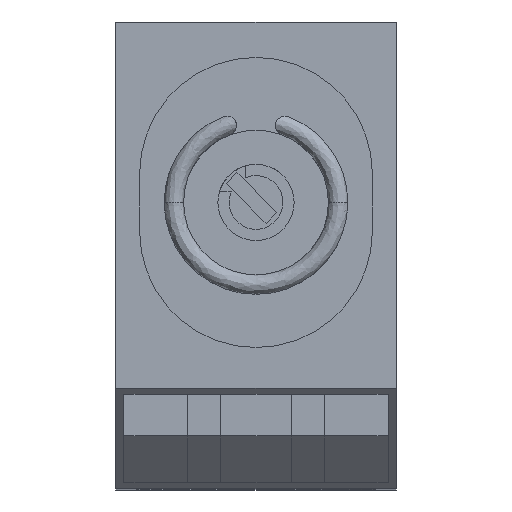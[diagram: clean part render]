
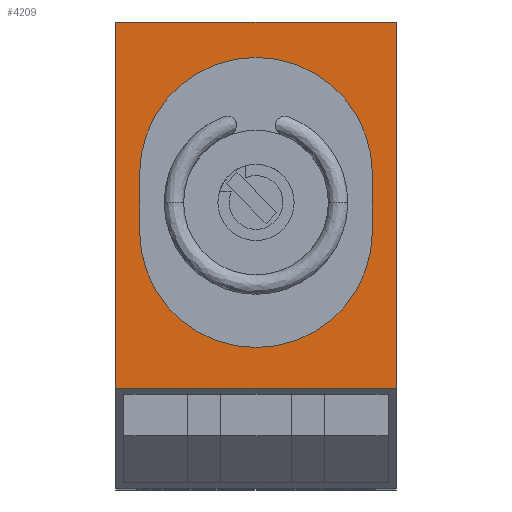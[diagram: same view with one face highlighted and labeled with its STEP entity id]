
A CAD part, top view. The second image highlights one B-rep face of the part: STEP entity #4209.
In plain terms, the highlighted planar face has unit normal (0, 0, 1).
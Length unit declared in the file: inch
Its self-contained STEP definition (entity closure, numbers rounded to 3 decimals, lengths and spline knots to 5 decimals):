
#544 = CARTESIAN_POINT ( 'NONE',  ( 4.2922, 3.69774, 0.3059 ) ) ;
#598 = CARTESIAN_POINT ( 'NONE',  ( 4.7267, 3.43174, 0.3059 ) ) ;
#611 = VERTEX_POINT ( 'NONE', #5450 ) ;
#691 = LINE ( 'NONE', #692, #693 ) ;
#692 = CARTESIAN_POINT ( 'NONE',  ( 4.2922, 3.43174, 0.3059 ) ) ;
#693 = VECTOR ( 'NONE', #694, 39.37008 ) ;
#694 = DIRECTION ( 'NONE',  ( 0., 1., 0. ) ) ;
#961 = CIRCLE ( 'NONE', #962, 0.197 ) ;
#962 = AXIS2_PLACEMENT_3D ( 'NONE', #963, #964, #969 ) ;
#963 = CARTESIAN_POINT ( 'NONE',  ( 4.4892, 3.79474, 0.3059 ) ) ;
#964 = DIRECTION ( 'NONE',  ( 0., 0., -1. ) ) ;
#969 = DIRECTION ( 'NONE',  ( -1., 0., 0. ) ) ;
#1268 = CARTESIAN_POINT ( 'NONE',  ( 4.2922, 3.79474, 0.3059 ) ) ;
#1367 = CARTESIAN_POINT ( 'NONE',  ( 4.2517, 4.05174, 0.3059 ) ) ;
#1368 = LINE ( 'NONE', #1369, #1370 ) ;
#1369 = CARTESIAN_POINT ( 'NONE',  ( 4.7267, 3.66808, 0.3059 ) ) ;
#1370 = VECTOR ( 'NONE', #1371, 39.37008 ) ;
#1371 = DIRECTION ( 'NONE',  ( 0., 1., 0. ) ) ;
#1478 = LINE ( 'NONE', #1479, #1480 ) ;
#1479 = CARTESIAN_POINT ( 'NONE',  ( 4.6862, 3.43174, 0.3059 ) ) ;
#1480 = VECTOR ( 'NONE', #1481, 39.37008 ) ;
#1481 = DIRECTION ( 'NONE',  ( 0., -1., 0. ) ) ;
#1512 = LINE ( 'NONE', #1513, #1514 ) ;
#1513 = CARTESIAN_POINT ( 'NONE',  ( 4.2517, 3.43174, 0.3059 ) ) ;
#1514 = VECTOR ( 'NONE', #1515, 39.37008 ) ;
#1515 = DIRECTION ( 'NONE',  ( 0., -1., 0. ) ) ;
#1849 = CARTESIAN_POINT ( 'NONE',  ( 4.6862, 3.69774, 0.3059 ) ) ;
#1890 = CARTESIAN_POINT ( 'NONE',  ( 4.2517, 3.43174, 0.3059 ) ) ;
#1905 = CARTESIAN_POINT ( 'NONE',  ( 4.7267, 4.05174, 0.3059 ) ) ;
#1987 = LINE ( 'NONE', #1988, #1989 ) ;
#1988 = CARTESIAN_POINT ( 'NONE',  ( 4.2517, 4.05174, 0.3059 ) ) ;
#1989 = VECTOR ( 'NONE', #1990, 39.37008 ) ;
#1990 = DIRECTION ( 'NONE',  ( -1., 0., 0. ) ) ;
#3274 = ORIENTED_EDGE ( 'NONE', *, *, #4625, .T. ) ;
#3868 = ORIENTED_EDGE ( 'NONE', *, *, #4011, .T. ) ;
#3924 = EDGE_LOOP ( 'NONE', ( #3868, #3274, #4681, #4633 ) ) ;
#3944 = ORIENTED_EDGE ( 'NONE', *, *, #4130, .T. ) ;
#3997 = EDGE_CURVE ( 'NONE', #6190, #4114, #1368, .T. ) ;
#4011 = EDGE_CURVE ( 'NONE', #611, #4098, #1478, .T. ) ;
#4029 = ORIENTED_EDGE ( 'NONE', *, *, #3997, .T. ) ;
#4078 = ORIENTED_EDGE ( 'NONE', *, *, #4238, .T. ) ;
#4098 = VERTEX_POINT ( 'NONE', #1849 ) ;
#4114 = VERTEX_POINT ( 'NONE', #1905 ) ;
#4130 = EDGE_CURVE ( 'NONE', #4114, #4926, #1987, .T. ) ;
#4133 = ORIENTED_EDGE ( 'NONE', *, *, #4950, .T. ) ;
#4180 = EDGE_LOOP ( 'NONE', ( #4133, #4078, #4029, #3944 ) ) ;
#4209 = ADVANCED_FACE ( 'NONE', ( #6497, #6498 ), #6499, .T. ) ;
#4238 = EDGE_CURVE ( 'NONE', #5039, #6190, #6714, .T. ) ;
#4625 = EDGE_CURVE ( 'NONE', #4098, #4795, #6140, .T. ) ;
#4633 = ORIENTED_EDGE ( 'NONE', *, *, #6583, .T. ) ;
#4681 = ORIENTED_EDGE ( 'NONE', *, *, #4816, .T. ) ;
#4795 = VERTEX_POINT ( 'NONE', #544 ) ;
#4816 = EDGE_CURVE ( 'NONE', #4795, #4900, #691, .T. ) ;
#4900 = VERTEX_POINT ( 'NONE', #1268 ) ;
#4926 = VERTEX_POINT ( 'NONE', #1367 ) ;
#4950 = EDGE_CURVE ( 'NONE', #4926, #5039, #1512, .T. ) ;
#5039 = VERTEX_POINT ( 'NONE', #1890 ) ;
#5450 = CARTESIAN_POINT ( 'NONE',  ( 4.6862, 3.79474, 0.3059 ) ) ;
#6140 = CIRCLE ( 'NONE', #6141, 0.197 ) ;
#6141 = AXIS2_PLACEMENT_3D ( 'NONE', #6142, #6143, #6144 ) ;
#6142 = CARTESIAN_POINT ( 'NONE',  ( 4.4892, 3.69774, 0.3059 ) ) ;
#6143 = DIRECTION ( 'NONE',  ( 0., 0., -1. ) ) ;
#6144 = DIRECTION ( 'NONE',  ( -1., 0., 0. ) ) ;
#6190 = VERTEX_POINT ( 'NONE', #598 ) ;
#6497 = FACE_OUTER_BOUND ( 'NONE', #4180, .T. ) ;
#6498 = FACE_BOUND ( 'NONE', #3924, .T. ) ;
#6499 = PLANE ( 'NONE',  #6500 ) ;
#6500 = AXIS2_PLACEMENT_3D ( 'NONE', #6501, #6502, #6503 ) ;
#6501 = CARTESIAN_POINT ( 'NONE',  ( 4.2517, 3.43174, 0.3059 ) ) ;
#6502 = DIRECTION ( 'NONE',  ( 0., 0., 1. ) ) ;
#6503 = DIRECTION ( 'NONE',  ( 0., -1., 0. ) ) ;
#6583 = EDGE_CURVE ( 'NONE', #4900, #611, #961, .T. ) ;
#6714 = LINE ( 'NONE', #6715, #6716 ) ;
#6715 = CARTESIAN_POINT ( 'NONE',  ( 4.2517, 3.43174, 0.3059 ) ) ;
#6716 = VECTOR ( 'NONE', #6717, 39.37008 ) ;
#6717 = DIRECTION ( 'NONE',  ( 1., 0., 0. ) ) ;
